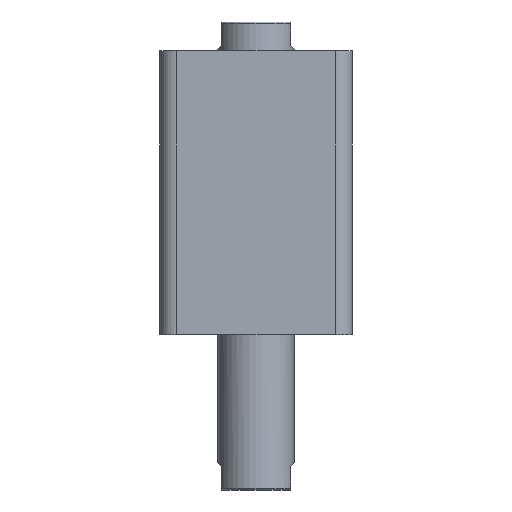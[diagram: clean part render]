
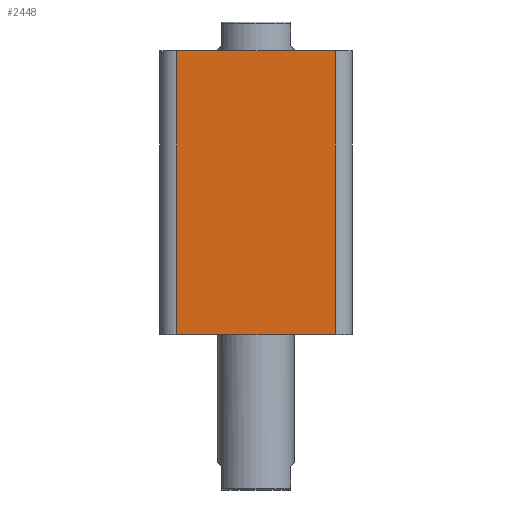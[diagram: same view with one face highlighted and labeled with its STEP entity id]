
A CAD part, front view. The second image highlights one B-rep face of the part: STEP entity #2448.
In plain terms, the highlighted planar face has unit normal (0, -1, 0).
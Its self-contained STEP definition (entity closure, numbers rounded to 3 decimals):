
#159 = CARTESIAN_POINT ( 'NONE',  ( 47., -57., 168. ) ) ;
#160 = CARTESIAN_POINT ( 'NONE',  ( -47., -57., 168. ) ) ;
#162 = CARTESIAN_POINT ( 'NONE',  ( 47., -57., 0. ) ) ;
#185 = CARTESIAN_POINT ( 'NONE',  ( -47., -57., 0. ) ) ;
#477 = ORIENTED_EDGE ( 'NONE', *, *, #1258, .T. ) ;
#488 = ORIENTED_EDGE ( 'NONE', *, *, #1260, .T. ) ;
#489 = ORIENTED_EDGE ( 'NONE', *, *, #1261, .T. ) ;
#490 = ORIENTED_EDGE ( 'NONE', *, *, #1259, .F. ) ;
#761 = FACE_OUTER_BOUND ( 'NONE', #2763, .T. ) ;
#1216 = CARTESIAN_POINT ( 'NONE',  ( -57., -57., 0. ) ) ;
#1217 = DIRECTION ( 'NONE',  ( 0., 0., 1. ) ) ;
#1218 = CARTESIAN_POINT ( 'NONE',  ( 47., -57., 168. ) ) ;
#1219 = DIRECTION ( 'NONE',  ( 1., 0., 0. ) ) ;
#1221 = DIRECTION ( 'NONE',  ( 0., 0., -1. ) ) ;
#1226 = CARTESIAN_POINT ( 'NONE',  ( -47., -57., 168. ) ) ;
#1227 = CARTESIAN_POINT ( 'NONE',  ( -57., -57., 168. ) ) ;
#1258 = EDGE_CURVE ( 'NONE', #2826, #2851, #3076, .T. ) ;
#1259 = EDGE_CURVE ( 'NONE', #2826, #2825, #3077, .T. ) ;
#1260 = EDGE_CURVE ( 'NONE', #2828, #2825, #3080, .T. ) ;
#1261 = EDGE_CURVE ( 'NONE', #2851, #2828, #3082, .T. ) ;
#1372 = AXIS2_PLACEMENT_3D ( 'NONE', #1859, #1869, #1870 ) ;
#1560 = DIRECTION ( 'NONE',  ( 1., 0., 0. ) ) ;
#1859 = CARTESIAN_POINT ( 'NONE',  ( -57., -57., 168. ) ) ;
#1867 = PLANE ( 'NONE',  #1372 ) ;
#1869 = DIRECTION ( 'NONE',  ( 0., 1., 0. ) ) ;
#1870 = DIRECTION ( 'NONE',  ( 0., 0., 1. ) ) ;
#2448 = ADVANCED_FACE ( 'NONE', ( #761 ), #1867, .F. ) ;
#2763 = EDGE_LOOP ( 'NONE', ( #489, #488, #490, #477 ) ) ;
#2825 = VERTEX_POINT ( 'NONE', #159 ) ;
#2826 = VERTEX_POINT ( 'NONE', #160 ) ;
#2828 = VERTEX_POINT ( 'NONE', #162 ) ;
#2851 = VERTEX_POINT ( 'NONE', #185 ) ;
#3076 = LINE ( 'NONE', #1226, #3079 ) ;
#3077 = LINE ( 'NONE', #1227, #3081 ) ;
#3079 = VECTOR ( 'NONE', #1221, 1000. ) ;
#3080 = LINE ( 'NONE', #1218, #3083 ) ;
#3081 = VECTOR ( 'NONE', #1219, 1000. ) ;
#3082 = LINE ( 'NONE', #1216, #3085 ) ;
#3083 = VECTOR ( 'NONE', #1217, 1000. ) ;
#3085 = VECTOR ( 'NONE', #1560, 1000. ) ;
